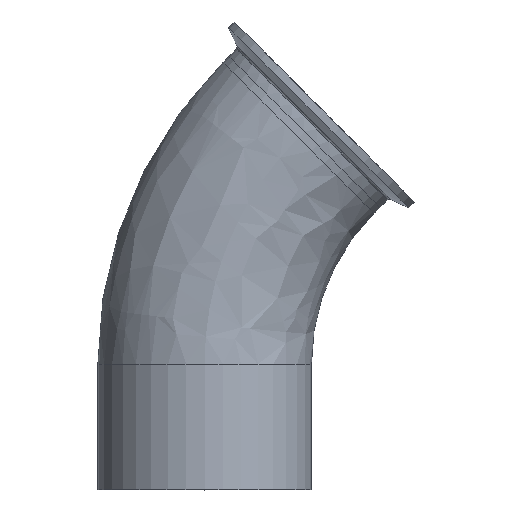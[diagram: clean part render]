
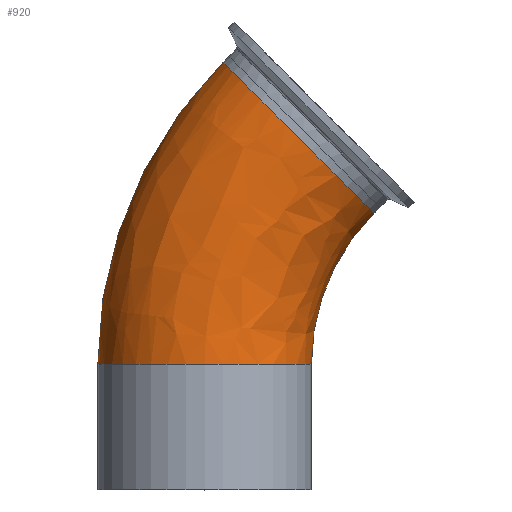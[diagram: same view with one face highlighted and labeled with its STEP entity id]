
A CAD part, top view. The second image highlights one B-rep face of the part: STEP entity #920.
In plain terms, the highlighted free-form (B-spline) face has degree [3, 3] with [4, 4] control points.
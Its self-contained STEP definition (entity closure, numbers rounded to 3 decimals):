
#66 = EDGE_CURVE ( 'NONE', #471, #502, #1362, .T. ) ;
#98 = AXIS2_PLACEMENT_3D ( 'NONE', #599, #610, #906 ) ;
#112 = CARTESIAN_POINT ( 'NONE',  ( 38.1, 44.755, 0. ) ) ;
#279 = VERTEX_POINT ( 'NONE', #1317 ) ;
#299 = CIRCLE ( 'NONE', #98, 38.1 ) ;
#326 = DIRECTION ( 'NONE',  ( -1., 0., 0. ) ) ;
#387 = CARTESIAN_POINT ( 'NONE',  ( 114.3, 44.755, 0. ) ) ;
#434 = EDGE_LOOP ( 'NONE', ( #1478, #1033, #893, #1865 ) ) ;
#471 = VERTEX_POINT ( 'NONE', #702 ) ;
#502 = VERTEX_POINT ( 'NONE', #1672 ) ;
#599 = CARTESIAN_POINT ( 'NONE',  ( 33.478, 125.578, 0. ) ) ;
#610 = DIRECTION ( 'NONE',  ( -0.707, -0.707, 0. ) ) ;
#658 = CARTESIAN_POINT ( 'NONE',  ( -38.1, 44.755, 0. ) ) ;
#690 = DIRECTION ( 'NONE',  ( 0., 0., -1. ) ) ;
#696 = CARTESIAN_POINT ( 'NONE',  ( 114.3, 44.755, 0. ) ) ;
#702 = CARTESIAN_POINT ( 'NONE',  ( -38.1, 44.755, 0. ) ) ;
#703 = DIRECTION ( 'NONE',  ( -1., 0., 0. ) ) ;
#751 = CARTESIAN_POINT ( 'NONE',  ( -38.1, 85.715, 0. ) ) ;
#833 = AXIS2_PLACEMENT_3D ( 'NONE', #696, #690, #703 ) ;
#893 = ORIENTED_EDGE ( 'NONE', *, *, #1064, .T. ) ;
#904 = VERTEX_POINT ( 'NONE', #112 ) ;
#906 = DIRECTION ( 'NONE',  ( -0.707, 0.707, 0. ) ) ;
#920 = ADVANCED_FACE ( 'NONE', ( #1287 ), #1643, .T. ) ;
#1033 = ORIENTED_EDGE ( 'NONE', *, *, #1587, .T. ) ;
#1037 = CARTESIAN_POINT ( 'NONE',  ( 0., 44.755, 0. ) ) ;
#1043 = DIRECTION ( 'NONE',  ( -1., 0., 0. ) ) ;
#1058 = DIRECTION ( 'NONE',  ( 0., 1., 0. ) ) ;
#1064 = EDGE_CURVE ( 'NONE', #279, #502, #299, .T. ) ;
#1222 = CARTESIAN_POINT ( 'NONE',  ( -22.426, 123.556, 0. ) ) ;
#1227 = CARTESIAN_POINT ( 'NONE',  ( 6.537, 152.518, 0. ) ) ;
#1231 = CARTESIAN_POINT ( 'NONE',  ( -38.1, 44.755, 76.2 ) ) ;
#1239 = CARTESIAN_POINT ( 'NONE',  ( -38.1, 85.715, 76.2 ) ) ;
#1251 = CARTESIAN_POINT ( 'NONE',  ( -22.426, 123.556, 76.2 ) ) ;
#1254 = CARTESIAN_POINT ( 'NONE',  ( 6.537, 152.518, 76.2 ) ) ;
#1264 = CARTESIAN_POINT ( 'NONE',  ( 38.1, 44.755, 76.2 ) ) ;
#1269 = AXIS2_PLACEMENT_3D ( 'NONE', #1037, #1058, #1043 ) ;
#1272 = CARTESIAN_POINT ( 'NONE',  ( 38.1, 65.235, 76.2 ) ) ;
#1281 = CARTESIAN_POINT ( 'NONE',  ( 45.937, 84.156, 76.2 ) ) ;
#1287 = FACE_OUTER_BOUND ( 'NONE', #434, .T. ) ;
#1290 = CARTESIAN_POINT ( 'NONE',  ( 60.418, 98.637, 76.2 ) ) ;
#1302 = CARTESIAN_POINT ( 'NONE',  ( 38.1, 44.755, 0. ) ) ;
#1317 = CARTESIAN_POINT ( 'NONE',  ( 60.418, 98.637, 0. ) ) ;
#1358 = CIRCLE ( 'NONE', #833, 76.2 ) ;
#1362 = CIRCLE ( 'NONE', #1472, 152.4 ) ;
#1407 = CARTESIAN_POINT ( 'NONE',  ( 38.1, 65.235, 0. ) ) ;
#1410 = DIRECTION ( 'NONE',  ( 0., 0., -1. ) ) ;
#1414 = CARTESIAN_POINT ( 'NONE',  ( 45.937, 84.156, 0. ) ) ;
#1418 = CARTESIAN_POINT ( 'NONE',  ( 60.418, 98.637, 0. ) ) ;
#1472 = AXIS2_PLACEMENT_3D ( 'NONE', #387, #1410, #326 ) ;
#1478 = ORIENTED_EDGE ( 'NONE', *, *, #1922, .T. ) ;
#1587 = EDGE_CURVE ( 'NONE', #904, #279, #1358, .T. ) ;
#1597 = CIRCLE ( 'NONE', #1269, 38.1 ) ;
#1643 =( BOUNDED_SURFACE ( )  B_SPLINE_SURFACE ( 3, 3, ( 
 ( #658, #751, #1222, #1227 ),
 ( #1231, #1239, #1251, #1254 ),
 ( #1264, #1272, #1281, #1290 ),
 ( #1302, #1407, #1414, #1418 ) ),
 .UNSPECIFIED., .F., .F., .T. ) 
 B_SPLINE_SURFACE_WITH_KNOTS ( ( 4, 4 ),
 ( 4, 4 ),
 ( 0., 1. ),
 ( 0., 1. ),
 .UNSPECIFIED. ) 
 GEOMETRIC_REPRESENTATION_ITEM ( )  RATIONAL_B_SPLINE_SURFACE ( (
 ( 1., 0.949, 0.949, 1.),
 ( 0.333, 0.316, 0.316, 0.333),
 ( 0.333, 0.316, 0.316, 0.333),
 ( 1., 0.949, 0.949, 1.) ) ) 
 REPRESENTATION_ITEM ( '' )  SURFACE ( )  );
#1672 = CARTESIAN_POINT ( 'NONE',  ( 6.537, 152.518, 0. ) ) ;
#1865 = ORIENTED_EDGE ( 'NONE', *, *, #66, .F. ) ;
#1922 = EDGE_CURVE ( 'NONE', #471, #904, #1597, .T. ) ;
